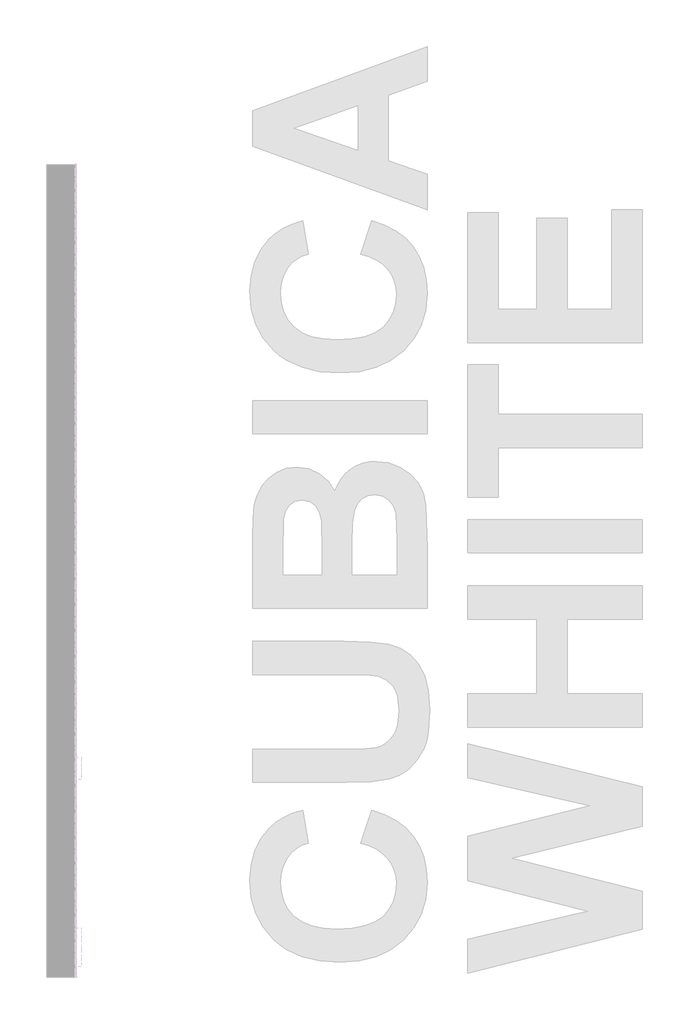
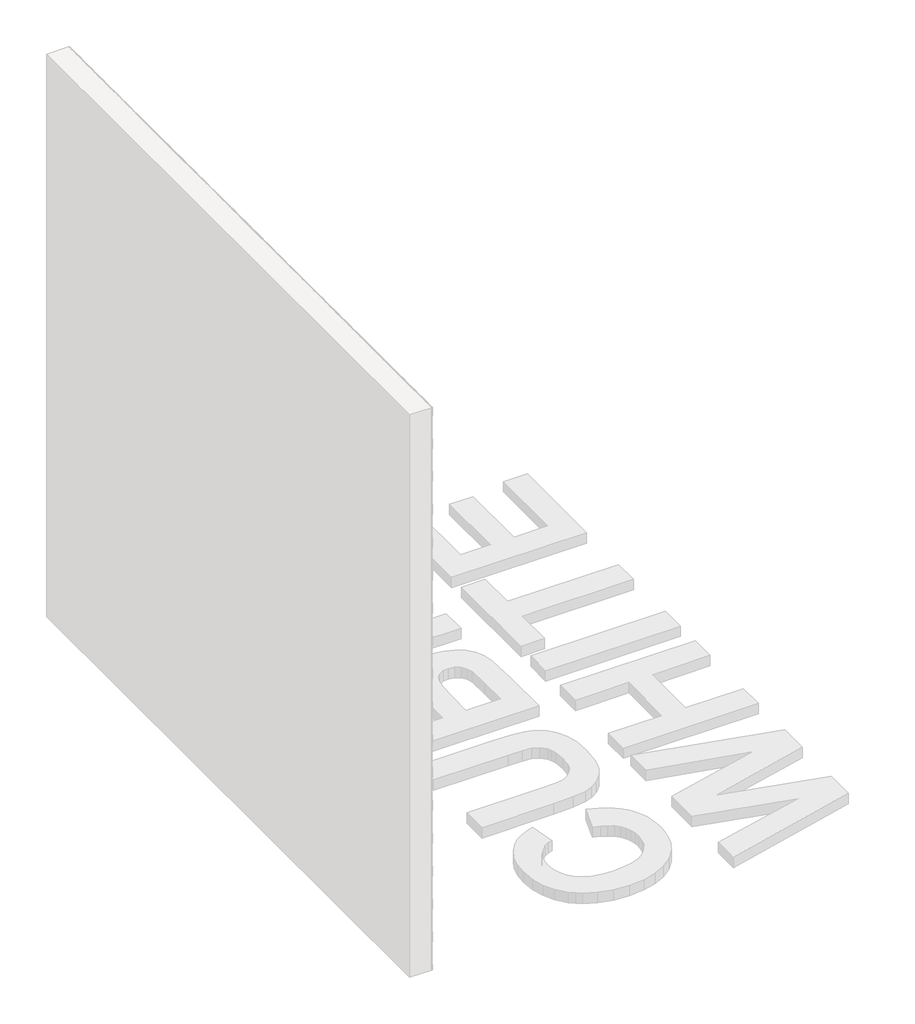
# One storey, part 109 of 121: 145 proxies.
"""IFC4 building model written with IfcOpenShell, lengths in millimetres."""

from ifc_helpers import new_model, si_unit, origin, place, context, project, spatial, transform, mapped, element, save
from components import generic_models_b2b2c5c1, generic_models_9bf73f6f, generic_models_5d175859

model = new_model("IFC4")

# Units and contexts
model_context = context("Model", 3, world=origin())
ifc_project = project(units=[si_unit("LENGTHUNIT", "METRE", prefix="MILLI")], contexts=[model_context])

# Site, building, storey
site = spatial("IfcSite", under=ifc_project)
building = spatial("IfcBuilding", under=site)
storey = spatial("IfcBuildingStorey", under=building, Name="PORTOBELLO - SHOWROOM", Elevation=0.0)

# Proxies
placement = place(None, origin())
generic_models_shape = generic_models_b2b2c5c1(model_context)
element("IfcBuildingElementProxy", 1, Name="PBSHOP - CUBICA WHITE 4,8X8,3 : CUBICA WHITE - POSIÇÃO 01", ObjectType="PBSHOP - CUBICA WHITE 4,8X8,3 : CUBICA WHITE - POSIÇÃO 01", at=placement, inside=storey, context=model_context, shape_type="MappedRepresentation", body=[
    mapped(generic_models_shape, transform((150369.5341846, 20422.8778804, 1539.1802959), x_axis=(0.0, 1.0, 0.0), y_axis=(0.0, 0.0, 1.0), z_axis=(1.0, 0.0, 0.0))),
])
element("IfcBuildingElementProxy", 2, Name="PBSHOP - CUBICA WHITE 4,8X8,3 : CUBICA WHITE - POSIÇÃO 01", ObjectType="PBSHOP - CUBICA WHITE 4,8X8,3 : CUBICA WHITE - POSIÇÃO 01", at=placement, inside=storey, context=model_context, shape_type="MappedRepresentation", body=[
    mapped(generic_models_shape, transform((150369.5341846, 20513.7171496, 1539.1802959), x_axis=(0.0, 1.0, 0.0), y_axis=(0.0, 0.0, 1.0), z_axis=(1.0, 0.0, 0.0))),
])
element("IfcBuildingElementProxy", 3, Name="PBSHOP - CUBICA WHITE 4,8X8,3 : CUBICA WHITE - POSIÇÃO 01", ObjectType="PBSHOP - CUBICA WHITE 4,8X8,3 : CUBICA WHITE - POSIÇÃO 01", at=placement, inside=storey, context=model_context, shape_type="MappedRepresentation", body=[
    mapped(generic_models_shape, transform((150369.5341846, 20604.5564189, 1539.1802959), x_axis=(0.0, 1.0, 0.0), y_axis=(0.0, 0.0, 1.0), z_axis=(1.0, 0.0, 0.0))),
])
element("IfcBuildingElementProxy", 4, Name="PBSHOP - CUBICA WHITE 4,8X8,3 : CUBICA WHITE - POSIÇÃO 01", ObjectType="PBSHOP - CUBICA WHITE 4,8X8,3 : CUBICA WHITE - POSIÇÃO 01", at=placement, inside=storey, context=model_context, shape_type="MappedRepresentation", body=[
    mapped(generic_models_shape, transform((150369.5341846, 20695.3956881, 1539.1802959), x_axis=(0.0, 1.0, 0.0), y_axis=(0.0, 0.0, 1.0), z_axis=(1.0, 0.0, 0.0))),
])
element("IfcBuildingElementProxy", 5, Name="PBSHOP - CUBICA WHITE 4,8X8,3 : CUBICA WHITE - POSIÇÃO 01", ObjectType="PBSHOP - CUBICA WHITE 4,8X8,3 : CUBICA WHITE - POSIÇÃO 01", at=placement, inside=storey, context=model_context, shape_type="MappedRepresentation", body=[
    mapped(generic_models_shape, transform((150369.5341846, 20786.2349573, 1539.1802959), x_axis=(0.0, 1.0, 0.0), y_axis=(0.0, 0.0, 1.0), z_axis=(1.0, 0.0, 0.0))),
])
element("IfcBuildingElementProxy", 6, Name="PBSHOP - CUBICA WHITE 4,8X8,3 : CUBICA WHITE - POSIÇÃO 01", ObjectType="PBSHOP - CUBICA WHITE 4,8X8,3 : CUBICA WHITE - POSIÇÃO 01", at=placement, inside=storey, context=model_context, shape_type="MappedRepresentation", body=[
    mapped(generic_models_shape, transform((150369.5341846, 20877.0742266, 1539.1802959), x_axis=(0.0, 1.0, 0.0), y_axis=(0.0, 0.0, 1.0), z_axis=(1.0, 0.0, 0.0))),
])
element("IfcBuildingElementProxy", 7, Name="PBSHOP - CUBICA WHITE 4,8X8,3 : CUBICA WHITE - POSIÇÃO 01", ObjectType="PBSHOP - CUBICA WHITE 4,8X8,3 : CUBICA WHITE - POSIÇÃO 01", at=placement, inside=storey, context=model_context, shape_type="MappedRepresentation", body=[
    mapped(generic_models_shape, transform((150369.5341846, 20967.9134958, 1539.1802959), x_axis=(0.0, 1.0, 0.0), y_axis=(0.0, 0.0, 1.0), z_axis=(1.0, 0.0, 0.0))),
])
element("IfcBuildingElementProxy", 8, Name="PBSHOP - CUBICA WHITE 4,8X8,3 : CUBICA WHITE - POSIÇÃO 01", ObjectType="PBSHOP - CUBICA WHITE 4,8X8,3 : CUBICA WHITE - POSIÇÃO 01", at=placement, inside=storey, context=model_context, shape_type="MappedRepresentation", body=[
    mapped(generic_models_shape, transform((150369.5341846, 20014.1011688, 1618.1149343), x_axis=(0.0, 1.0, 0.0), y_axis=(0.0, 0.0, 1.0), z_axis=(1.0, 0.0, 0.0))),
])
element("IfcBuildingElementProxy", 9, Name="PBSHOP - CUBICA WHITE 4,8X8,3 : CUBICA WHITE - POSIÇÃO 01", ObjectType="PBSHOP - CUBICA WHITE 4,8X8,3 : CUBICA WHITE - POSIÇÃO 01", at=placement, inside=storey, context=model_context, shape_type="MappedRepresentation", body=[
    mapped(generic_models_shape, transform((150369.5341846, 20104.940438, 1618.1149343), x_axis=(0.0, 1.0, 0.0), y_axis=(0.0, 0.0, 1.0), z_axis=(1.0, 0.0, 0.0))),
])
element("IfcBuildingElementProxy", 10, Name="PBSHOP - CUBICA WHITE 4,8X8,3 : CUBICA WHITE - POSIÇÃO 01", ObjectType="PBSHOP - CUBICA WHITE 4,8X8,3 : CUBICA WHITE - POSIÇÃO 01", at=placement, inside=storey, context=model_context, shape_type="MappedRepresentation", body=[
    mapped(generic_models_shape, transform((150369.5341846, 20195.7797073, 1618.1149343), x_axis=(0.0, 1.0, 0.0), y_axis=(0.0, 0.0, 1.0), z_axis=(1.0, 0.0, 0.0))),
])
element("IfcBuildingElementProxy", 11, Name="PBSHOP - CUBICA WHITE 4,8X8,3 : CUBICA WHITE - POSIÇÃO 01", ObjectType="PBSHOP - CUBICA WHITE 4,8X8,3 : CUBICA WHITE - POSIÇÃO 01", at=placement, inside=storey, context=model_context, shape_type="MappedRepresentation", body=[
    mapped(generic_models_shape, transform((150369.5341846, 20286.6189765, 1618.1149343), x_axis=(0.0, 1.0, 0.0), y_axis=(0.0, 0.0, 1.0), z_axis=(1.0, 0.0, 0.0))),
])
element("IfcBuildingElementProxy", 12, Name="PBSHOP - CUBICA WHITE 4,8X8,3 : CUBICA WHITE - POSIÇÃO 01", ObjectType="PBSHOP - CUBICA WHITE 4,8X8,3 : CUBICA WHITE - POSIÇÃO 01", at=placement, inside=storey, context=model_context, shape_type="MappedRepresentation", body=[
    mapped(generic_models_shape, transform((150369.5341846, 20377.4582457, 1618.1149343), x_axis=(0.0, 1.0, 0.0), y_axis=(0.0, 0.0, 1.0), z_axis=(1.0, 0.0, 0.0))),
])
element("IfcBuildingElementProxy", 13, Name="PBSHOP - CUBICA WHITE 4,8X8,3 : CUBICA WHITE - POSIÇÃO 01", ObjectType="PBSHOP - CUBICA WHITE 4,8X8,3 : CUBICA WHITE - POSIÇÃO 01", at=placement, inside=storey, context=model_context, shape_type="MappedRepresentation", body=[
    mapped(generic_models_shape, transform((150369.5341846, 20468.297515, 1618.1149343), x_axis=(0.0, 1.0, 0.0), y_axis=(0.0, 0.0, 1.0), z_axis=(1.0, 0.0, 0.0))),
])
element("IfcBuildingElementProxy", 14, Name="PBSHOP - CUBICA WHITE 4,8X8,3 : CUBICA WHITE - POSIÇÃO 01", ObjectType="PBSHOP - CUBICA WHITE 4,8X8,3 : CUBICA WHITE - POSIÇÃO 01", at=placement, inside=storey, context=model_context, shape_type="MappedRepresentation", body=[
    mapped(generic_models_shape, transform((150369.5341846, 20559.1367842, 1618.1149343), x_axis=(0.0, 1.0, 0.0), y_axis=(0.0, 0.0, 1.0), z_axis=(1.0, 0.0, 0.0))),
])
element("IfcBuildingElementProxy", 15, Name="PBSHOP - CUBICA WHITE 4,8X8,3 : CUBICA WHITE - POSIÇÃO 01", ObjectType="PBSHOP - CUBICA WHITE 4,8X8,3 : CUBICA WHITE - POSIÇÃO 01", at=placement, inside=storey, context=model_context, shape_type="MappedRepresentation", body=[
    mapped(generic_models_shape, transform((150369.5341846, 20649.9760535, 1618.1149343), x_axis=(0.0, 1.0, 0.0), y_axis=(0.0, 0.0, 1.0), z_axis=(1.0, 0.0, 0.0))),
])
element("IfcBuildingElementProxy", 16, Name="PBSHOP - CUBICA WHITE 4,8X8,3 : CUBICA WHITE - POSIÇÃO 01", ObjectType="PBSHOP - CUBICA WHITE 4,8X8,3 : CUBICA WHITE - POSIÇÃO 01", at=placement, inside=storey, context=model_context, shape_type="MappedRepresentation", body=[
    mapped(generic_models_shape, transform((150369.5341846, 20740.8153227, 1618.1149343), x_axis=(0.0, 1.0, 0.0), y_axis=(0.0, 0.0, 1.0), z_axis=(1.0, 0.0, 0.0))),
])
element("IfcBuildingElementProxy", 17, Name="PBSHOP - CUBICA WHITE 4,8X8,3 : CUBICA WHITE - POSIÇÃO 01", ObjectType="PBSHOP - CUBICA WHITE 4,8X8,3 : CUBICA WHITE - POSIÇÃO 01", at=placement, inside=storey, context=model_context, shape_type="MappedRepresentation", body=[
    mapped(generic_models_shape, transform((150369.5341846, 20831.654592, 1618.1149343), x_axis=(0.0, 1.0, 0.0), y_axis=(0.0, 0.0, 1.0), z_axis=(1.0, 0.0, 0.0))),
])
element("IfcBuildingElementProxy", 18, Name="PBSHOP - CUBICA WHITE 4,8X8,3 : CUBICA WHITE - POSIÇÃO 01", ObjectType="PBSHOP - CUBICA WHITE 4,8X8,3 : CUBICA WHITE - POSIÇÃO 01", at=placement, inside=storey, context=model_context, shape_type="MappedRepresentation", body=[
    mapped(generic_models_shape, transform((150369.5341846, 20922.4938612, 1618.1149343), x_axis=(0.0, 1.0, 0.0), y_axis=(0.0, 0.0, 1.0), z_axis=(1.0, 0.0, 0.0))),
])
element("IfcBuildingElementProxy", 19, Name="PBSHOP - CUBICA WHITE 4,8X8,3 : CUBICA WHITE - POSIÇÃO 01", ObjectType="PBSHOP - CUBICA WHITE 4,8X8,3 : CUBICA WHITE - POSIÇÃO 01", at=placement, inside=storey, context=model_context, shape_type="MappedRepresentation", body=[
    mapped(generic_models_shape, transform((150369.5341846, 20059.5208034, 1697.0495727), x_axis=(0.0, 1.0, 0.0), y_axis=(0.0, 0.0, 1.0), z_axis=(1.0, 0.0, 0.0))),
])
element("IfcBuildingElementProxy", 20, Name="PBSHOP - CUBICA WHITE 4,8X8,3 : CUBICA WHITE - POSIÇÃO 01", ObjectType="PBSHOP - CUBICA WHITE 4,8X8,3 : CUBICA WHITE - POSIÇÃO 01", at=placement, inside=storey, context=model_context, shape_type="MappedRepresentation", body=[
    mapped(generic_models_shape, transform((150369.5341846, 20150.3600726, 1697.0495727), x_axis=(0.0, 1.0, 0.0), y_axis=(0.0, 0.0, 1.0), z_axis=(1.0, 0.0, 0.0))),
])
element("IfcBuildingElementProxy", 21, Name="PBSHOP - CUBICA WHITE 4,8X8,3 : CUBICA WHITE - POSIÇÃO 01", ObjectType="PBSHOP - CUBICA WHITE 4,8X8,3 : CUBICA WHITE - POSIÇÃO 01", at=placement, inside=storey, context=model_context, shape_type="MappedRepresentation", body=[
    mapped(generic_models_shape, transform((150369.5341846, 20241.1993419, 1697.0495727), x_axis=(0.0, 1.0, 0.0), y_axis=(0.0, 0.0, 1.0), z_axis=(1.0, 0.0, 0.0))),
])
element("IfcBuildingElementProxy", 22, Name="PBSHOP - CUBICA WHITE 4,8X8,3 : CUBICA WHITE - POSIÇÃO 01", ObjectType="PBSHOP - CUBICA WHITE 4,8X8,3 : CUBICA WHITE - POSIÇÃO 01", at=placement, inside=storey, context=model_context, shape_type="MappedRepresentation", body=[
    mapped(generic_models_shape, transform((150369.5341846, 20332.0386111, 1697.0495727), x_axis=(0.0, 1.0, 0.0), y_axis=(0.0, 0.0, 1.0), z_axis=(1.0, 0.0, 0.0))),
])
element("IfcBuildingElementProxy", 23, Name="PBSHOP - CUBICA WHITE 4,8X8,3 : CUBICA WHITE - POSIÇÃO 01", ObjectType="PBSHOP - CUBICA WHITE 4,8X8,3 : CUBICA WHITE - POSIÇÃO 01", at=placement, inside=storey, context=model_context, shape_type="MappedRepresentation", body=[
    mapped(generic_models_shape, transform((150369.5341846, 20422.8778804, 1697.0495727), x_axis=(0.0, 1.0, 0.0), y_axis=(0.0, 0.0, 1.0), z_axis=(1.0, 0.0, 0.0))),
])
element("IfcBuildingElementProxy", 24, Name="PBSHOP - CUBICA WHITE 4,8X8,3 : CUBICA WHITE - POSIÇÃO 01", ObjectType="PBSHOP - CUBICA WHITE 4,8X8,3 : CUBICA WHITE - POSIÇÃO 01", at=placement, inside=storey, context=model_context, shape_type="MappedRepresentation", body=[
    mapped(generic_models_shape, transform((150369.5341846, 20513.7171496, 1697.0495727), x_axis=(0.0, 1.0, 0.0), y_axis=(0.0, 0.0, 1.0), z_axis=(1.0, 0.0, 0.0))),
])
element("IfcBuildingElementProxy", 25, Name="PBSHOP - CUBICA WHITE 4,8X8,3 : CUBICA WHITE - POSIÇÃO 01", ObjectType="PBSHOP - CUBICA WHITE 4,8X8,3 : CUBICA WHITE - POSIÇÃO 01", at=placement, inside=storey, context=model_context, shape_type="MappedRepresentation", body=[
    mapped(generic_models_shape, transform((150369.5341846, 20604.5564189, 1697.0495727), x_axis=(0.0, 1.0, 0.0), y_axis=(0.0, 0.0, 1.0), z_axis=(1.0, 0.0, 0.0))),
])
element("IfcBuildingElementProxy", 26, Name="PBSHOP - CUBICA WHITE 4,8X8,3 : CUBICA WHITE - POSIÇÃO 01", ObjectType="PBSHOP - CUBICA WHITE 4,8X8,3 : CUBICA WHITE - POSIÇÃO 01", at=placement, inside=storey, context=model_context, shape_type="MappedRepresentation", body=[
    mapped(generic_models_shape, transform((150369.5341846, 20695.3956881, 1697.0495727), x_axis=(0.0, 1.0, 0.0), y_axis=(0.0, 0.0, 1.0), z_axis=(1.0, 0.0, 0.0))),
])
element("IfcBuildingElementProxy", 27, Name="PBSHOP - CUBICA WHITE 4,8X8,3 : CUBICA WHITE - POSIÇÃO 01", ObjectType="PBSHOP - CUBICA WHITE 4,8X8,3 : CUBICA WHITE - POSIÇÃO 01", at=placement, inside=storey, context=model_context, shape_type="MappedRepresentation", body=[
    mapped(generic_models_shape, transform((150369.5341846, 20786.2349573, 1697.0495727), x_axis=(0.0, 1.0, 0.0), y_axis=(0.0, 0.0, 1.0), z_axis=(1.0, 0.0, 0.0))),
])
element("IfcBuildingElementProxy", 28, Name="PBSHOP - CUBICA WHITE 4,8X8,3 : CUBICA WHITE - POSIÇÃO 01", ObjectType="PBSHOP - CUBICA WHITE 4,8X8,3 : CUBICA WHITE - POSIÇÃO 01", at=placement, inside=storey, context=model_context, shape_type="MappedRepresentation", body=[
    mapped(generic_models_shape, transform((150369.5341846, 20877.0742266, 1697.0495727), x_axis=(0.0, 1.0, 0.0), y_axis=(0.0, 0.0, 1.0), z_axis=(1.0, 0.0, 0.0))),
])
element("IfcBuildingElementProxy", 29, Name="PBSHOP - CUBICA WHITE 4,8X8,3 : CUBICA WHITE - POSIÇÃO 01", ObjectType="PBSHOP - CUBICA WHITE 4,8X8,3 : CUBICA WHITE - POSIÇÃO 01", at=placement, inside=storey, context=model_context, shape_type="MappedRepresentation", body=[
    mapped(generic_models_shape, transform((150369.5341846, 20967.9134958, 1697.0495727), x_axis=(0.0, 1.0, 0.0), y_axis=(0.0, 0.0, 1.0), z_axis=(1.0, 0.0, 0.0))),
])
element("IfcBuildingElementProxy", 30, Name="PBSHOP - CUBICA WHITE 4,8X8,3 : CUBICA WHITE - POSIÇÃO 01", ObjectType="PBSHOP - CUBICA WHITE 4,8X8,3 : CUBICA WHITE - POSIÇÃO 01", at=placement, inside=storey, context=model_context, shape_type="MappedRepresentation", body=[
    mapped(generic_models_shape, transform((150369.5341846, 20014.1011688, 1775.984211), x_axis=(0.0, 1.0, 0.0), y_axis=(0.0, 0.0, 1.0), z_axis=(1.0, 0.0, 0.0))),
])
element("IfcBuildingElementProxy", 31, Name="PBSHOP - CUBICA WHITE 4,8X8,3 : CUBICA WHITE - POSIÇÃO 01", ObjectType="PBSHOP - CUBICA WHITE 4,8X8,3 : CUBICA WHITE - POSIÇÃO 01", at=placement, inside=storey, context=model_context, shape_type="MappedRepresentation", body=[
    mapped(generic_models_shape, transform((150369.5341846, 20104.940438, 1775.984211), x_axis=(0.0, 1.0, 0.0), y_axis=(0.0, 0.0, 1.0), z_axis=(1.0, 0.0, 0.0))),
])
element("IfcBuildingElementProxy", 32, Name="PBSHOP - CUBICA WHITE 4,8X8,3 : CUBICA WHITE - POSIÇÃO 01", ObjectType="PBSHOP - CUBICA WHITE 4,8X8,3 : CUBICA WHITE - POSIÇÃO 01", at=placement, inside=storey, context=model_context, shape_type="MappedRepresentation", body=[
    mapped(generic_models_shape, transform((150369.5341846, 20195.7797073, 1775.984211), x_axis=(0.0, 1.0, 0.0), y_axis=(0.0, 0.0, 1.0), z_axis=(1.0, 0.0, 0.0))),
])
element("IfcBuildingElementProxy", 33, Name="PBSHOP - CUBICA WHITE 4,8X8,3 : CUBICA WHITE - POSIÇÃO 01", ObjectType="PBSHOP - CUBICA WHITE 4,8X8,3 : CUBICA WHITE - POSIÇÃO 01", at=placement, inside=storey, context=model_context, shape_type="MappedRepresentation", body=[
    mapped(generic_models_shape, transform((150369.5341846, 20286.6189765, 1775.984211), x_axis=(0.0, 1.0, 0.0), y_axis=(0.0, 0.0, 1.0), z_axis=(1.0, 0.0, 0.0))),
])
element("IfcBuildingElementProxy", 34, Name="PBSHOP - CUBICA WHITE 4,8X8,3 : CUBICA WHITE - POSIÇÃO 01", ObjectType="PBSHOP - CUBICA WHITE 4,8X8,3 : CUBICA WHITE - POSIÇÃO 01", at=placement, inside=storey, context=model_context, shape_type="MappedRepresentation", body=[
    mapped(generic_models_shape, transform((150369.5341846, 20377.4582457, 1775.984211), x_axis=(0.0, 1.0, 0.0), y_axis=(0.0, 0.0, 1.0), z_axis=(1.0, 0.0, 0.0))),
])
element("IfcBuildingElementProxy", 35, Name="PBSHOP - CUBICA WHITE 4,8X8,3 : CUBICA WHITE - POSIÇÃO 01", ObjectType="PBSHOP - CUBICA WHITE 4,8X8,3 : CUBICA WHITE - POSIÇÃO 01", at=placement, inside=storey, context=model_context, shape_type="MappedRepresentation", body=[
    mapped(generic_models_shape, transform((150369.5341846, 20468.297515, 1775.984211), x_axis=(0.0, 1.0, 0.0), y_axis=(0.0, 0.0, 1.0), z_axis=(1.0, 0.0, 0.0))),
])
element("IfcBuildingElementProxy", 36, Name="PBSHOP - CUBICA WHITE 4,8X8,3 : CUBICA WHITE - POSIÇÃO 01", ObjectType="PBSHOP - CUBICA WHITE 4,8X8,3 : CUBICA WHITE - POSIÇÃO 01", at=placement, inside=storey, context=model_context, shape_type="MappedRepresentation", body=[
    mapped(generic_models_shape, transform((150369.5341846, 20559.1367842, 1775.984211), x_axis=(0.0, 1.0, 0.0), y_axis=(0.0, 0.0, 1.0), z_axis=(1.0, 0.0, 0.0))),
])
element("IfcBuildingElementProxy", 37, Name="PBSHOP - CUBICA WHITE 4,8X8,3 : CUBICA WHITE - POSIÇÃO 01", ObjectType="PBSHOP - CUBICA WHITE 4,8X8,3 : CUBICA WHITE - POSIÇÃO 01", at=placement, inside=storey, context=model_context, shape_type="MappedRepresentation", body=[
    mapped(generic_models_shape, transform((150369.5341846, 20649.9760535, 1775.984211), x_axis=(0.0, 1.0, 0.0), y_axis=(0.0, 0.0, 1.0), z_axis=(1.0, 0.0, 0.0))),
])
element("IfcBuildingElementProxy", 38, Name="PBSHOP - CUBICA WHITE 4,8X8,3 : CUBICA WHITE - POSIÇÃO 01", ObjectType="PBSHOP - CUBICA WHITE 4,8X8,3 : CUBICA WHITE - POSIÇÃO 01", at=placement, inside=storey, context=model_context, shape_type="MappedRepresentation", body=[
    mapped(generic_models_shape, transform((150369.5341846, 20740.8153227, 1775.984211), x_axis=(0.0, 1.0, 0.0), y_axis=(0.0, 0.0, 1.0), z_axis=(1.0, 0.0, 0.0))),
])
element("IfcBuildingElementProxy", 39, Name="PBSHOP - CUBICA WHITE 4,8X8,3 : CUBICA WHITE - POSIÇÃO 01", ObjectType="PBSHOP - CUBICA WHITE 4,8X8,3 : CUBICA WHITE - POSIÇÃO 01", at=placement, inside=storey, context=model_context, shape_type="MappedRepresentation", body=[
    mapped(generic_models_shape, transform((150369.5341846, 20831.654592, 1775.984211), x_axis=(0.0, 1.0, 0.0), y_axis=(0.0, 0.0, 1.0), z_axis=(1.0, 0.0, 0.0))),
])
element("IfcBuildingElementProxy", 40, Name="PBSHOP - CUBICA WHITE 4,8X8,3 : CUBICA WHITE - POSIÇÃO 01", ObjectType="PBSHOP - CUBICA WHITE 4,8X8,3 : CUBICA WHITE - POSIÇÃO 01", at=placement, inside=storey, context=model_context, shape_type="MappedRepresentation", body=[
    mapped(generic_models_shape, transform((150369.5341846, 20922.4938612, 1775.984211), x_axis=(0.0, 1.0, 0.0), y_axis=(0.0, 0.0, 1.0), z_axis=(1.0, 0.0, 0.0))),
])
element("IfcBuildingElementProxy", 41, Name="PBSHOP - CUBICA WHITE 4,8X8,3 : CUBICA WHITE - POSIÇÃO 01", ObjectType="PBSHOP - CUBICA WHITE 4,8X8,3 : CUBICA WHITE - POSIÇÃO 01", at=placement, inside=storey, context=model_context, shape_type="MappedRepresentation", body=[
    mapped(generic_models_shape, transform((150369.5341846, 20059.5208034, 1854.9188494), x_axis=(0.0, 1.0, 0.0), y_axis=(0.0, 0.0, 1.0), z_axis=(1.0, 0.0, 0.0))),
])
element("IfcBuildingElementProxy", 42, Name="PBSHOP - CUBICA WHITE 4,8X8,3 : CUBICA WHITE - POSIÇÃO 01", ObjectType="PBSHOP - CUBICA WHITE 4,8X8,3 : CUBICA WHITE - POSIÇÃO 01", at=placement, inside=storey, context=model_context, shape_type="MappedRepresentation", body=[
    mapped(generic_models_shape, transform((150369.5341846, 20150.3600726, 1854.9188494), x_axis=(0.0, 1.0, 0.0), y_axis=(0.0, 0.0, 1.0), z_axis=(1.0, 0.0, 0.0))),
])
element("IfcBuildingElementProxy", 43, Name="PBSHOP - CUBICA WHITE 4,8X8,3 : CUBICA WHITE - POSIÇÃO 01", ObjectType="PBSHOP - CUBICA WHITE 4,8X8,3 : CUBICA WHITE - POSIÇÃO 01", at=placement, inside=storey, context=model_context, shape_type="MappedRepresentation", body=[
    mapped(generic_models_shape, transform((150369.5341846, 20241.1993419, 1854.9188494), x_axis=(0.0, 1.0, 0.0), y_axis=(0.0, 0.0, 1.0), z_axis=(1.0, 0.0, 0.0))),
])
element("IfcBuildingElementProxy", 44, Name="PBSHOP - CUBICA WHITE 4,8X8,3 : CUBICA WHITE - POSIÇÃO 01", ObjectType="PBSHOP - CUBICA WHITE 4,8X8,3 : CUBICA WHITE - POSIÇÃO 01", at=placement, inside=storey, context=model_context, shape_type="MappedRepresentation", body=[
    mapped(generic_models_shape, transform((150369.5341846, 20332.0386111, 1854.9188494), x_axis=(0.0, 1.0, 0.0), y_axis=(0.0, 0.0, 1.0), z_axis=(1.0, 0.0, 0.0))),
])
element("IfcBuildingElementProxy", 45, Name="PBSHOP - CUBICA WHITE 4,8X8,3 : CUBICA WHITE - POSIÇÃO 01", ObjectType="PBSHOP - CUBICA WHITE 4,8X8,3 : CUBICA WHITE - POSIÇÃO 01", at=placement, inside=storey, context=model_context, shape_type="MappedRepresentation", body=[
    mapped(generic_models_shape, transform((150369.5341846, 20422.8778804, 1854.9188494), x_axis=(0.0, 1.0, 0.0), y_axis=(0.0, 0.0, 1.0), z_axis=(1.0, 0.0, 0.0))),
])
element("IfcBuildingElementProxy", 46, Name="PBSHOP - CUBICA WHITE 4,8X8,3 : CUBICA WHITE - POSIÇÃO 01", ObjectType="PBSHOP - CUBICA WHITE 4,8X8,3 : CUBICA WHITE - POSIÇÃO 01", at=placement, inside=storey, context=model_context, shape_type="MappedRepresentation", body=[
    mapped(generic_models_shape, transform((150369.5341846, 20513.7171496, 1854.9188494), x_axis=(0.0, 1.0, 0.0), y_axis=(0.0, 0.0, 1.0), z_axis=(1.0, 0.0, 0.0))),
])
element("IfcBuildingElementProxy", 47, Name="PBSHOP - CUBICA WHITE 4,8X8,3 : CUBICA WHITE - POSIÇÃO 01", ObjectType="PBSHOP - CUBICA WHITE 4,8X8,3 : CUBICA WHITE - POSIÇÃO 01", at=placement, inside=storey, context=model_context, shape_type="MappedRepresentation", body=[
    mapped(generic_models_shape, transform((150369.5341846, 20604.5564189, 1854.9188494), x_axis=(0.0, 1.0, 0.0), y_axis=(0.0, 0.0, 1.0), z_axis=(1.0, 0.0, 0.0))),
])
element("IfcBuildingElementProxy", 48, Name="PBSHOP - CUBICA WHITE 4,8X8,3 : CUBICA WHITE - POSIÇÃO 01", ObjectType="PBSHOP - CUBICA WHITE 4,8X8,3 : CUBICA WHITE - POSIÇÃO 01", at=placement, inside=storey, context=model_context, shape_type="MappedRepresentation", body=[
    mapped(generic_models_shape, transform((150369.5341846, 20695.3956881, 1854.9188494), x_axis=(0.0, 1.0, 0.0), y_axis=(0.0, 0.0, 1.0), z_axis=(1.0, 0.0, 0.0))),
])
element("IfcBuildingElementProxy", 49, Name="PBSHOP - CUBICA WHITE 4,8X8,3 : CUBICA WHITE - POSIÇÃO 01", ObjectType="PBSHOP - CUBICA WHITE 4,8X8,3 : CUBICA WHITE - POSIÇÃO 01", at=placement, inside=storey, context=model_context, shape_type="MappedRepresentation", body=[
    mapped(generic_models_shape, transform((150369.5341846, 20786.2349573, 1854.9188494), x_axis=(0.0, 1.0, 0.0), y_axis=(0.0, 0.0, 1.0), z_axis=(1.0, 0.0, 0.0))),
])
element("IfcBuildingElementProxy", 50, Name="PBSHOP - CUBICA WHITE 4,8X8,3 : CUBICA WHITE - POSIÇÃO 01", ObjectType="PBSHOP - CUBICA WHITE 4,8X8,3 : CUBICA WHITE - POSIÇÃO 01", at=placement, inside=storey, context=model_context, shape_type="MappedRepresentation", body=[
    mapped(generic_models_shape, transform((150369.5341846, 20877.0742266, 1854.9188494), x_axis=(0.0, 1.0, 0.0), y_axis=(0.0, 0.0, 1.0), z_axis=(1.0, 0.0, 0.0))),
])
generic_models_2_shape = generic_models_9bf73f6f(model_context)
element("IfcBuildingElementProxy", 51, Name="PBSHOP - CUBICA WHITE 4,8X8,3 : CUBICA WHITE - POSIÇÃO 03", ObjectType="PBSHOP - CUBICA WHITE 4,8X8,3 : CUBICA WHITE - POSIÇÃO 03", at=placement, inside=storey, context=model_context, shape_type="MappedRepresentation", body=[
    mapped(generic_models_2_shape, transform((150369.5341846, 20036.8131452, 1499.6717663), x_axis=(0.0, 1.0, 0.0), y_axis=(0.0, 0.0, 1.0), z_axis=(1.0, 0.0, 0.0))),
])
element("IfcBuildingElementProxy", 52, Name="PBSHOP - CUBICA WHITE 4,8X8,3 : CUBICA WHITE - POSIÇÃO 03", ObjectType="PBSHOP - CUBICA WHITE 4,8X8,3 : CUBICA WHITE - POSIÇÃO 03", at=placement, inside=storey, context=model_context, shape_type="MappedRepresentation", body=[
    mapped(generic_models_2_shape, transform((150369.5341846, 20127.6524145, 1499.6717663), x_axis=(0.0, 1.0, 0.0), y_axis=(0.0, 0.0, 1.0), z_axis=(1.0, 0.0, 0.0))),
])
element("IfcBuildingElementProxy", 53, Name="PBSHOP - CUBICA WHITE 4,8X8,3 : CUBICA WHITE - POSIÇÃO 03", ObjectType="PBSHOP - CUBICA WHITE 4,8X8,3 : CUBICA WHITE - POSIÇÃO 03", at=placement, inside=storey, context=model_context, shape_type="MappedRepresentation", body=[
    mapped(generic_models_2_shape, transform((150369.5341846, 20218.4916837, 1499.6717663), x_axis=(0.0, 1.0, 0.0), y_axis=(0.0, 0.0, 1.0), z_axis=(1.0, 0.0, 0.0))),
])
element("IfcBuildingElementProxy", 54, Name="PBSHOP - CUBICA WHITE 4,8X8,3 : CUBICA WHITE - POSIÇÃO 03", ObjectType="PBSHOP - CUBICA WHITE 4,8X8,3 : CUBICA WHITE - POSIÇÃO 03", at=placement, inside=storey, context=model_context, shape_type="MappedRepresentation", body=[
    mapped(generic_models_2_shape, transform((150369.5341846, 20309.330953, 1499.6717663), x_axis=(0.0, 1.0, 0.0), y_axis=(0.0, 0.0, 1.0), z_axis=(1.0, 0.0, 0.0))),
])
element("IfcBuildingElementProxy", 55, Name="PBSHOP - CUBICA WHITE 4,8X8,3 : CUBICA WHITE - POSIÇÃO 03", ObjectType="PBSHOP - CUBICA WHITE 4,8X8,3 : CUBICA WHITE - POSIÇÃO 03", at=placement, inside=storey, context=model_context, shape_type="MappedRepresentation", body=[
    mapped(generic_models_2_shape, transform((150369.5341846, 20400.1702222, 1499.6717663), x_axis=(0.0, 1.0, 0.0), y_axis=(0.0, 0.0, 1.0), z_axis=(1.0, 0.0, 0.0))),
])
element("IfcBuildingElementProxy", 56, Name="PBSHOP - CUBICA WHITE 4,8X8,3 : CUBICA WHITE - POSIÇÃO 03", ObjectType="PBSHOP - CUBICA WHITE 4,8X8,3 : CUBICA WHITE - POSIÇÃO 03", at=placement, inside=storey, context=model_context, shape_type="MappedRepresentation", body=[
    mapped(generic_models_2_shape, transform((150369.5341846, 20491.0094915, 1499.6717663), x_axis=(0.0, 1.0, 0.0), y_axis=(0.0, 0.0, 1.0), z_axis=(1.0, 0.0, 0.0))),
])
element("IfcBuildingElementProxy", 57, Name="PBSHOP - CUBICA WHITE 4,8X8,3 : CUBICA WHITE - POSIÇÃO 03", ObjectType="PBSHOP - CUBICA WHITE 4,8X8,3 : CUBICA WHITE - POSIÇÃO 03", at=placement, inside=storey, context=model_context, shape_type="MappedRepresentation", body=[
    mapped(generic_models_2_shape, transform((150369.5341846, 20581.8487607, 1499.6717663), x_axis=(0.0, 1.0, 0.0), y_axis=(0.0, 0.0, 1.0), z_axis=(1.0, 0.0, 0.0))),
])
element("IfcBuildingElementProxy", 58, Name="PBSHOP - CUBICA WHITE 4,8X8,3 : CUBICA WHITE - POSIÇÃO 03", ObjectType="PBSHOP - CUBICA WHITE 4,8X8,3 : CUBICA WHITE - POSIÇÃO 03", at=placement, inside=storey, context=model_context, shape_type="MappedRepresentation", body=[
    mapped(generic_models_2_shape, transform((150369.5341846, 20672.6880299, 1499.6717663), x_axis=(0.0, 1.0, 0.0), y_axis=(0.0, 0.0, 1.0), z_axis=(1.0, 0.0, 0.0))),
])
element("IfcBuildingElementProxy", 59, Name="PBSHOP - CUBICA WHITE 4,8X8,3 : CUBICA WHITE - POSIÇÃO 03", ObjectType="PBSHOP - CUBICA WHITE 4,8X8,3 : CUBICA WHITE - POSIÇÃO 03", at=placement, inside=storey, context=model_context, shape_type="MappedRepresentation", body=[
    mapped(generic_models_2_shape, transform((150369.5341846, 20763.5272992, 1499.6717663), x_axis=(0.0, 1.0, 0.0), y_axis=(0.0, 0.0, 1.0), z_axis=(1.0, 0.0, 0.0))),
])
element("IfcBuildingElementProxy", 60, Name="PBSHOP - CUBICA WHITE 4,8X8,3 : CUBICA WHITE - POSIÇÃO 03", ObjectType="PBSHOP - CUBICA WHITE 4,8X8,3 : CUBICA WHITE - POSIÇÃO 03", at=placement, inside=storey, context=model_context, shape_type="MappedRepresentation", body=[
    mapped(generic_models_2_shape, transform((150369.5341846, 20854.3665684, 1499.6717663), x_axis=(0.0, 1.0, 0.0), y_axis=(0.0, 0.0, 1.0), z_axis=(1.0, 0.0, 0.0))),
])
element("IfcBuildingElementProxy", 61, Name="PBSHOP - CUBICA WHITE 4,8X8,3 : CUBICA WHITE - POSIÇÃO 03", ObjectType="PBSHOP - CUBICA WHITE 4,8X8,3 : CUBICA WHITE - POSIÇÃO 03", at=placement, inside=storey, context=model_context, shape_type="MappedRepresentation", body=[
    mapped(generic_models_2_shape, transform((150369.5341846, 20945.2058377, 1499.6717663), x_axis=(0.0, 1.0, 0.0), y_axis=(0.0, 0.0, 1.0), z_axis=(1.0, 0.0, 0.0))),
])
element("IfcBuildingElementProxy", 62, Name="PBSHOP - CUBICA WHITE 4,8X8,3 : CUBICA WHITE - POSIÇÃO 03", ObjectType="PBSHOP - CUBICA WHITE 4,8X8,3 : CUBICA WHITE - POSIÇÃO 03", at=placement, inside=storey, context=model_context, shape_type="MappedRepresentation", body=[
    mapped(generic_models_2_shape, transform((150369.5341846, 20082.2327799, 1578.6064047), x_axis=(0.0, 1.0, 0.0), y_axis=(0.0, 0.0, 1.0), z_axis=(1.0, 0.0, 0.0))),
])
element("IfcBuildingElementProxy", 63, Name="PBSHOP - CUBICA WHITE 4,8X8,3 : CUBICA WHITE - POSIÇÃO 03", ObjectType="PBSHOP - CUBICA WHITE 4,8X8,3 : CUBICA WHITE - POSIÇÃO 03", at=placement, inside=storey, context=model_context, shape_type="MappedRepresentation", body=[
    mapped(generic_models_2_shape, transform((150369.5341846, 20173.0720491, 1578.6064047), x_axis=(0.0, 1.0, 0.0), y_axis=(0.0, 0.0, 1.0), z_axis=(1.0, 0.0, 0.0))),
])
element("IfcBuildingElementProxy", 64, Name="PBSHOP - CUBICA WHITE 4,8X8,3 : CUBICA WHITE - POSIÇÃO 03", ObjectType="PBSHOP - CUBICA WHITE 4,8X8,3 : CUBICA WHITE - POSIÇÃO 03", at=placement, inside=storey, context=model_context, shape_type="MappedRepresentation", body=[
    mapped(generic_models_2_shape, transform((150369.5341846, 20263.9113184, 1578.6064047), x_axis=(0.0, 1.0, 0.0), y_axis=(0.0, 0.0, 1.0), z_axis=(1.0, 0.0, 0.0))),
])
element("IfcBuildingElementProxy", 65, Name="PBSHOP - CUBICA WHITE 4,8X8,3 : CUBICA WHITE - POSIÇÃO 03", ObjectType="PBSHOP - CUBICA WHITE 4,8X8,3 : CUBICA WHITE - POSIÇÃO 03", at=placement, inside=storey, context=model_context, shape_type="MappedRepresentation", body=[
    mapped(generic_models_2_shape, transform((150369.5341846, 20354.7505876, 1578.6064047), x_axis=(0.0, 1.0, 0.0), y_axis=(0.0, 0.0, 1.0), z_axis=(1.0, 0.0, 0.0))),
])
element("IfcBuildingElementProxy", 66, Name="PBSHOP - CUBICA WHITE 4,8X8,3 : CUBICA WHITE - POSIÇÃO 03", ObjectType="PBSHOP - CUBICA WHITE 4,8X8,3 : CUBICA WHITE - POSIÇÃO 03", at=placement, inside=storey, context=model_context, shape_type="MappedRepresentation", body=[
    mapped(generic_models_2_shape, transform((150369.5341846, 20445.5898568, 1578.6064047), x_axis=(0.0, 1.0, 0.0), y_axis=(0.0, 0.0, 1.0), z_axis=(1.0, 0.0, 0.0))),
])
element("IfcBuildingElementProxy", 67, Name="PBSHOP - CUBICA WHITE 4,8X8,3 : CUBICA WHITE - POSIÇÃO 03", ObjectType="PBSHOP - CUBICA WHITE 4,8X8,3 : CUBICA WHITE - POSIÇÃO 03", at=placement, inside=storey, context=model_context, shape_type="MappedRepresentation", body=[
    mapped(generic_models_2_shape, transform((150369.5341846, 20536.4291261, 1578.6064047), x_axis=(0.0, 1.0, 0.0), y_axis=(0.0, 0.0, 1.0), z_axis=(1.0, 0.0, 0.0))),
])
element("IfcBuildingElementProxy", 68, Name="PBSHOP - CUBICA WHITE 4,8X8,3 : CUBICA WHITE - POSIÇÃO 03", ObjectType="PBSHOP - CUBICA WHITE 4,8X8,3 : CUBICA WHITE - POSIÇÃO 03", at=placement, inside=storey, context=model_context, shape_type="MappedRepresentation", body=[
    mapped(generic_models_2_shape, transform((150369.5341846, 20627.2683953, 1578.6064047), x_axis=(0.0, 1.0, 0.0), y_axis=(0.0, 0.0, 1.0), z_axis=(1.0, 0.0, 0.0))),
])
element("IfcBuildingElementProxy", 69, Name="PBSHOP - CUBICA WHITE 4,8X8,3 : CUBICA WHITE - POSIÇÃO 03", ObjectType="PBSHOP - CUBICA WHITE 4,8X8,3 : CUBICA WHITE - POSIÇÃO 03", at=placement, inside=storey, context=model_context, shape_type="MappedRepresentation", body=[
    mapped(generic_models_2_shape, transform((150369.5341846, 20718.1076646, 1578.6064047), x_axis=(0.0, 1.0, 0.0), y_axis=(0.0, 0.0, 1.0), z_axis=(1.0, 0.0, 0.0))),
])
element("IfcBuildingElementProxy", 70, Name="PBSHOP - CUBICA WHITE 4,8X8,3 : CUBICA WHITE - POSIÇÃO 03", ObjectType="PBSHOP - CUBICA WHITE 4,8X8,3 : CUBICA WHITE - POSIÇÃO 03", at=placement, inside=storey, context=model_context, shape_type="MappedRepresentation", body=[
    mapped(generic_models_2_shape, transform((150369.5341846, 20808.9469338, 1578.6064047), x_axis=(0.0, 1.0, 0.0), y_axis=(0.0, 0.0, 1.0), z_axis=(1.0, 0.0, 0.0))),
])
element("IfcBuildingElementProxy", 71, Name="PBSHOP - CUBICA WHITE 4,8X8,3 : CUBICA WHITE - POSIÇÃO 03", ObjectType="PBSHOP - CUBICA WHITE 4,8X8,3 : CUBICA WHITE - POSIÇÃO 03", at=placement, inside=storey, context=model_context, shape_type="MappedRepresentation", body=[
    mapped(generic_models_2_shape, transform((150369.5341846, 20899.7862031, 1578.6064047), x_axis=(0.0, 1.0, 0.0), y_axis=(0.0, 0.0, 1.0), z_axis=(1.0, 0.0, 0.0))),
])
element("IfcBuildingElementProxy", 72, Name="PBSHOP - CUBICA WHITE 4,8X8,3 : CUBICA WHITE - POSIÇÃO 03", ObjectType="PBSHOP - CUBICA WHITE 4,8X8,3 : CUBICA WHITE - POSIÇÃO 03", at=placement, inside=storey, context=model_context, shape_type="MappedRepresentation", body=[
    mapped(generic_models_2_shape, transform((150369.5341846, 20990.6254723, 1578.6064047), x_axis=(0.0, 1.0, 0.0), y_axis=(0.0, 0.0, 1.0), z_axis=(1.0, 0.0, 0.0))),
])
element("IfcBuildingElementProxy", 73, Name="PBSHOP - CUBICA WHITE 4,8X8,3 : CUBICA WHITE - POSIÇÃO 03", ObjectType="PBSHOP - CUBICA WHITE 4,8X8,3 : CUBICA WHITE - POSIÇÃO 03", at=placement, inside=storey, context=model_context, shape_type="MappedRepresentation", body=[
    mapped(generic_models_2_shape, transform((150369.5341846, 20036.8131452, 1657.5410431), x_axis=(0.0, 1.0, 0.0), y_axis=(0.0, 0.0, 1.0), z_axis=(1.0, 0.0, 0.0))),
])
element("IfcBuildingElementProxy", 74, Name="PBSHOP - CUBICA WHITE 4,8X8,3 : CUBICA WHITE - POSIÇÃO 03", ObjectType="PBSHOP - CUBICA WHITE 4,8X8,3 : CUBICA WHITE - POSIÇÃO 03", at=placement, inside=storey, context=model_context, shape_type="MappedRepresentation", body=[
    mapped(generic_models_2_shape, transform((150369.5341846, 20127.6524145, 1657.5410431), x_axis=(0.0, 1.0, 0.0), y_axis=(0.0, 0.0, 1.0), z_axis=(1.0, 0.0, 0.0))),
])
element("IfcBuildingElementProxy", 75, Name="PBSHOP - CUBICA WHITE 4,8X8,3 : CUBICA WHITE - POSIÇÃO 03", ObjectType="PBSHOP - CUBICA WHITE 4,8X8,3 : CUBICA WHITE - POSIÇÃO 03", at=placement, inside=storey, context=model_context, shape_type="MappedRepresentation", body=[
    mapped(generic_models_2_shape, transform((150369.5341846, 20218.4916837, 1657.5410431), x_axis=(0.0, 1.0, 0.0), y_axis=(0.0, 0.0, 1.0), z_axis=(1.0, 0.0, 0.0))),
])
element("IfcBuildingElementProxy", 76, Name="PBSHOP - CUBICA WHITE 4,8X8,3 : CUBICA WHITE - POSIÇÃO 03", ObjectType="PBSHOP - CUBICA WHITE 4,8X8,3 : CUBICA WHITE - POSIÇÃO 03", at=placement, inside=storey, context=model_context, shape_type="MappedRepresentation", body=[
    mapped(generic_models_2_shape, transform((150369.5341846, 20309.330953, 1657.5410431), x_axis=(0.0, 1.0, 0.0), y_axis=(0.0, 0.0, 1.0), z_axis=(1.0, 0.0, 0.0))),
])
element("IfcBuildingElementProxy", 77, Name="PBSHOP - CUBICA WHITE 4,8X8,3 : CUBICA WHITE - POSIÇÃO 03", ObjectType="PBSHOP - CUBICA WHITE 4,8X8,3 : CUBICA WHITE - POSIÇÃO 03", at=placement, inside=storey, context=model_context, shape_type="MappedRepresentation", body=[
    mapped(generic_models_2_shape, transform((150369.5341846, 20400.1702222, 1657.5410431), x_axis=(0.0, 1.0, 0.0), y_axis=(0.0, 0.0, 1.0), z_axis=(1.0, 0.0, 0.0))),
])
element("IfcBuildingElementProxy", 78, Name="PBSHOP - CUBICA WHITE 4,8X8,3 : CUBICA WHITE - POSIÇÃO 03", ObjectType="PBSHOP - CUBICA WHITE 4,8X8,3 : CUBICA WHITE - POSIÇÃO 03", at=placement, inside=storey, context=model_context, shape_type="MappedRepresentation", body=[
    mapped(generic_models_2_shape, transform((150369.5341846, 20491.0094915, 1657.5410431), x_axis=(0.0, 1.0, 0.0), y_axis=(0.0, 0.0, 1.0), z_axis=(1.0, 0.0, 0.0))),
])
element("IfcBuildingElementProxy", 79, Name="PBSHOP - CUBICA WHITE 4,8X8,3 : CUBICA WHITE - POSIÇÃO 03", ObjectType="PBSHOP - CUBICA WHITE 4,8X8,3 : CUBICA WHITE - POSIÇÃO 03", at=placement, inside=storey, context=model_context, shape_type="MappedRepresentation", body=[
    mapped(generic_models_2_shape, transform((150369.5341846, 20581.8487607, 1657.5410431), x_axis=(0.0, 1.0, 0.0), y_axis=(0.0, 0.0, 1.0), z_axis=(1.0, 0.0, 0.0))),
])
element("IfcBuildingElementProxy", 80, Name="PBSHOP - CUBICA WHITE 4,8X8,3 : CUBICA WHITE - POSIÇÃO 03", ObjectType="PBSHOP - CUBICA WHITE 4,8X8,3 : CUBICA WHITE - POSIÇÃO 03", at=placement, inside=storey, context=model_context, shape_type="MappedRepresentation", body=[
    mapped(generic_models_2_shape, transform((150369.5341846, 20672.6880299, 1657.5410431), x_axis=(0.0, 1.0, 0.0), y_axis=(0.0, 0.0, 1.0), z_axis=(1.0, 0.0, 0.0))),
])
element("IfcBuildingElementProxy", 81, Name="PBSHOP - CUBICA WHITE 4,8X8,3 : CUBICA WHITE - POSIÇÃO 03", ObjectType="PBSHOP - CUBICA WHITE 4,8X8,3 : CUBICA WHITE - POSIÇÃO 03", at=placement, inside=storey, context=model_context, shape_type="MappedRepresentation", body=[
    mapped(generic_models_2_shape, transform((150369.5341846, 20763.5272992, 1657.5410431), x_axis=(0.0, 1.0, 0.0), y_axis=(0.0, 0.0, 1.0), z_axis=(1.0, 0.0, 0.0))),
])
element("IfcBuildingElementProxy", 82, Name="PBSHOP - CUBICA WHITE 4,8X8,3 : CUBICA WHITE - POSIÇÃO 03", ObjectType="PBSHOP - CUBICA WHITE 4,8X8,3 : CUBICA WHITE - POSIÇÃO 03", at=placement, inside=storey, context=model_context, shape_type="MappedRepresentation", body=[
    mapped(generic_models_2_shape, transform((150369.5341846, 20854.3665684, 1657.5410431), x_axis=(0.0, 1.0, 0.0), y_axis=(0.0, 0.0, 1.0), z_axis=(1.0, 0.0, 0.0))),
])
element("IfcBuildingElementProxy", 83, Name="PBSHOP - CUBICA WHITE 4,8X8,3 : CUBICA WHITE - POSIÇÃO 03", ObjectType="PBSHOP - CUBICA WHITE 4,8X8,3 : CUBICA WHITE - POSIÇÃO 03", at=placement, inside=storey, context=model_context, shape_type="MappedRepresentation", body=[
    mapped(generic_models_2_shape, transform((150369.5341846, 20945.2058377, 1657.5410431), x_axis=(0.0, 1.0, 0.0), y_axis=(0.0, 0.0, 1.0), z_axis=(1.0, 0.0, 0.0))),
])
element("IfcBuildingElementProxy", 84, Name="PBSHOP - CUBICA WHITE 4,8X8,3 : CUBICA WHITE - POSIÇÃO 03", ObjectType="PBSHOP - CUBICA WHITE 4,8X8,3 : CUBICA WHITE - POSIÇÃO 03", at=placement, inside=storey, context=model_context, shape_type="MappedRepresentation", body=[
    mapped(generic_models_2_shape, transform((150369.5341846, 20082.2327799, 1736.4756814), x_axis=(0.0, 1.0, 0.0), y_axis=(0.0, 0.0, 1.0), z_axis=(1.0, 0.0, 0.0))),
])
element("IfcBuildingElementProxy", 85, Name="PBSHOP - CUBICA WHITE 4,8X8,3 : CUBICA WHITE - POSIÇÃO 03", ObjectType="PBSHOP - CUBICA WHITE 4,8X8,3 : CUBICA WHITE - POSIÇÃO 03", at=placement, inside=storey, context=model_context, shape_type="MappedRepresentation", body=[
    mapped(generic_models_2_shape, transform((150369.5341846, 20173.0720491, 1736.4756814), x_axis=(0.0, 1.0, 0.0), y_axis=(0.0, 0.0, 1.0), z_axis=(1.0, 0.0, 0.0))),
])
element("IfcBuildingElementProxy", 86, Name="PBSHOP - CUBICA WHITE 4,8X8,3 : CUBICA WHITE - POSIÇÃO 03", ObjectType="PBSHOP - CUBICA WHITE 4,8X8,3 : CUBICA WHITE - POSIÇÃO 03", at=placement, inside=storey, context=model_context, shape_type="MappedRepresentation", body=[
    mapped(generic_models_2_shape, transform((150369.5341846, 20263.9113184, 1736.4756814), x_axis=(0.0, 1.0, 0.0), y_axis=(0.0, 0.0, 1.0), z_axis=(1.0, 0.0, 0.0))),
])
element("IfcBuildingElementProxy", 87, Name="PBSHOP - CUBICA WHITE 4,8X8,3 : CUBICA WHITE - POSIÇÃO 03", ObjectType="PBSHOP - CUBICA WHITE 4,8X8,3 : CUBICA WHITE - POSIÇÃO 03", at=placement, inside=storey, context=model_context, shape_type="MappedRepresentation", body=[
    mapped(generic_models_2_shape, transform((150369.5341846, 20354.7505876, 1736.4756814), x_axis=(0.0, 1.0, 0.0), y_axis=(0.0, 0.0, 1.0), z_axis=(1.0, 0.0, 0.0))),
])
element("IfcBuildingElementProxy", 88, Name="PBSHOP - CUBICA WHITE 4,8X8,3 : CUBICA WHITE - POSIÇÃO 03", ObjectType="PBSHOP - CUBICA WHITE 4,8X8,3 : CUBICA WHITE - POSIÇÃO 03", at=placement, inside=storey, context=model_context, shape_type="MappedRepresentation", body=[
    mapped(generic_models_2_shape, transform((150369.5341846, 20445.5898568, 1736.4756814), x_axis=(0.0, 1.0, 0.0), y_axis=(0.0, 0.0, 1.0), z_axis=(1.0, 0.0, 0.0))),
])
element("IfcBuildingElementProxy", 89, Name="PBSHOP - CUBICA WHITE 4,8X8,3 : CUBICA WHITE - POSIÇÃO 03", ObjectType="PBSHOP - CUBICA WHITE 4,8X8,3 : CUBICA WHITE - POSIÇÃO 03", at=placement, inside=storey, context=model_context, shape_type="MappedRepresentation", body=[
    mapped(generic_models_2_shape, transform((150369.5341846, 20536.4291261, 1736.4756814), x_axis=(0.0, 1.0, 0.0), y_axis=(0.0, 0.0, 1.0), z_axis=(1.0, 0.0, 0.0))),
])
element("IfcBuildingElementProxy", 90, Name="PBSHOP - CUBICA WHITE 4,8X8,3 : CUBICA WHITE - POSIÇÃO 03", ObjectType="PBSHOP - CUBICA WHITE 4,8X8,3 : CUBICA WHITE - POSIÇÃO 03", at=placement, inside=storey, context=model_context, shape_type="MappedRepresentation", body=[
    mapped(generic_models_2_shape, transform((150369.5341846, 20627.2683953, 1736.4756814), x_axis=(0.0, 1.0, 0.0), y_axis=(0.0, 0.0, 1.0), z_axis=(1.0, 0.0, 0.0))),
])
element("IfcBuildingElementProxy", 91, Name="PBSHOP - CUBICA WHITE 4,8X8,3 : CUBICA WHITE - POSIÇÃO 03", ObjectType="PBSHOP - CUBICA WHITE 4,8X8,3 : CUBICA WHITE - POSIÇÃO 03", at=placement, inside=storey, context=model_context, shape_type="MappedRepresentation", body=[
    mapped(generic_models_2_shape, transform((150369.5341846, 20718.1076646, 1736.4756814), x_axis=(0.0, 1.0, 0.0), y_axis=(0.0, 0.0, 1.0), z_axis=(1.0, 0.0, 0.0))),
])
element("IfcBuildingElementProxy", 92, Name="PBSHOP - CUBICA WHITE 4,8X8,3 : CUBICA WHITE - POSIÇÃO 03", ObjectType="PBSHOP - CUBICA WHITE 4,8X8,3 : CUBICA WHITE - POSIÇÃO 03", at=placement, inside=storey, context=model_context, shape_type="MappedRepresentation", body=[
    mapped(generic_models_2_shape, transform((150369.5341846, 20808.9469338, 1736.4756814), x_axis=(0.0, 1.0, 0.0), y_axis=(0.0, 0.0, 1.0), z_axis=(1.0, 0.0, 0.0))),
])
element("IfcBuildingElementProxy", 93, Name="PBSHOP - CUBICA WHITE 4,8X8,3 : CUBICA WHITE - POSIÇÃO 03", ObjectType="PBSHOP - CUBICA WHITE 4,8X8,3 : CUBICA WHITE - POSIÇÃO 03", at=placement, inside=storey, context=model_context, shape_type="MappedRepresentation", body=[
    mapped(generic_models_2_shape, transform((150369.5341846, 20899.7862031, 1736.4756814), x_axis=(0.0, 1.0, 0.0), y_axis=(0.0, 0.0, 1.0), z_axis=(1.0, 0.0, 0.0))),
])
element("IfcBuildingElementProxy", 94, Name="PBSHOP - CUBICA WHITE 4,8X8,3 : CUBICA WHITE - POSIÇÃO 03", ObjectType="PBSHOP - CUBICA WHITE 4,8X8,3 : CUBICA WHITE - POSIÇÃO 03", at=placement, inside=storey, context=model_context, shape_type="MappedRepresentation", body=[
    mapped(generic_models_2_shape, transform((150369.5341846, 20990.6254723, 1736.4756814), x_axis=(0.0, 1.0, 0.0), y_axis=(0.0, 0.0, 1.0), z_axis=(1.0, 0.0, 0.0))),
])
generic_models_3_shape = generic_models_5d175859(model_context)
element("IfcBuildingElementProxy", 95, Name="PBSHOP - CUBICA WHITE 4,8X8,3 : CUBICA WHITE - POSIÇÃO 01", ObjectType="PBSHOP - CUBICA WHITE 4,8X8,3 : CUBICA WHITE - POSIÇÃO 01", at=placement, inside=storey, context=model_context, shape_type="MappedRepresentation", body=[
    mapped(generic_models_3_shape, transform((150369.5341846, 20377.4625641, 1539.1802959), x_axis=(0.0, -1.0, 0.0), y_axis=(0.0, 0.0, -1.0), z_axis=(1.0, 0.0, 0.0))),
])
element("IfcBuildingElementProxy", 96, Name="PBSHOP - CUBICA WHITE 4,8X8,3 : CUBICA WHITE - POSIÇÃO 01", ObjectType="PBSHOP - CUBICA WHITE 4,8X8,3 : CUBICA WHITE - POSIÇÃO 01", at=placement, inside=storey, context=model_context, shape_type="MappedRepresentation", body=[
    mapped(generic_models_3_shape, transform((150369.5341846, 20468.3018333, 1539.1802959), x_axis=(0.0, -1.0, 0.0), y_axis=(0.0, 0.0, -1.0), z_axis=(1.0, 0.0, 0.0))),
])
element("IfcBuildingElementProxy", 97, Name="PBSHOP - CUBICA WHITE 4,8X8,3 : CUBICA WHITE - POSIÇÃO 01", ObjectType="PBSHOP - CUBICA WHITE 4,8X8,3 : CUBICA WHITE - POSIÇÃO 01", at=placement, inside=storey, context=model_context, shape_type="MappedRepresentation", body=[
    mapped(generic_models_3_shape, transform((150369.5341846, 20559.1411026, 1539.1802959), x_axis=(0.0, -1.0, 0.0), y_axis=(0.0, 0.0, -1.0), z_axis=(1.0, 0.0, 0.0))),
])
element("IfcBuildingElementProxy", 98, Name="PBSHOP - CUBICA WHITE 4,8X8,3 : CUBICA WHITE - POSIÇÃO 01", ObjectType="PBSHOP - CUBICA WHITE 4,8X8,3 : CUBICA WHITE - POSIÇÃO 01", at=placement, inside=storey, context=model_context, shape_type="MappedRepresentation", body=[
    mapped(generic_models_3_shape, transform((150369.5341846, 20649.9803718, 1539.1802959), x_axis=(0.0, -1.0, 0.0), y_axis=(0.0, 0.0, -1.0), z_axis=(1.0, 0.0, 0.0))),
])
element("IfcBuildingElementProxy", 99, Name="PBSHOP - CUBICA WHITE 4,8X8,3 : CUBICA WHITE - POSIÇÃO 01", ObjectType="PBSHOP - CUBICA WHITE 4,8X8,3 : CUBICA WHITE - POSIÇÃO 01", at=placement, inside=storey, context=model_context, shape_type="MappedRepresentation", body=[
    mapped(generic_models_3_shape, transform((150369.5341846, 20740.819641, 1539.1802959), x_axis=(0.0, -1.0, 0.0), y_axis=(0.0, 0.0, -1.0), z_axis=(1.0, 0.0, 0.0))),
])
element("IfcBuildingElementProxy", 100, Name="PBSHOP - CUBICA WHITE 4,8X8,3 : CUBICA WHITE - POSIÇÃO 01", ObjectType="PBSHOP - CUBICA WHITE 4,8X8,3 : CUBICA WHITE - POSIÇÃO 01", at=placement, inside=storey, context=model_context, shape_type="MappedRepresentation", body=[
    mapped(generic_models_3_shape, transform((150369.5341846, 20831.6589103, 1539.1802959), x_axis=(0.0, -1.0, 0.0), y_axis=(0.0, 0.0, -1.0), z_axis=(1.0, 0.0, 0.0))),
])
element("IfcBuildingElementProxy", 101, Name="PBSHOP - CUBICA WHITE 4,8X8,3 : CUBICA WHITE - POSIÇÃO 01", ObjectType="PBSHOP - CUBICA WHITE 4,8X8,3 : CUBICA WHITE - POSIÇÃO 01", at=placement, inside=storey, context=model_context, shape_type="MappedRepresentation", body=[
    mapped(generic_models_3_shape, transform((150369.5341846, 20922.4981795, 1539.1802959), x_axis=(0.0, -1.0, 0.0), y_axis=(0.0, 0.0, -1.0), z_axis=(1.0, 0.0, 0.0))),
])
element("IfcBuildingElementProxy", 102, Name="PBSHOP - CUBICA WHITE 4,8X8,3 : CUBICA WHITE - POSIÇÃO 01", ObjectType="PBSHOP - CUBICA WHITE 4,8X8,3 : CUBICA WHITE - POSIÇÃO 01", at=placement, inside=storey, context=model_context, shape_type="MappedRepresentation", body=[
    mapped(generic_models_3_shape, transform((150369.5341846, 20059.5251217, 1618.1149343), x_axis=(0.0, -1.0, 0.0), y_axis=(0.0, 0.0, -1.0), z_axis=(1.0, 0.0, 0.0))),
])
element("IfcBuildingElementProxy", 103, Name="PBSHOP - CUBICA WHITE 4,8X8,3 : CUBICA WHITE - POSIÇÃO 01", ObjectType="PBSHOP - CUBICA WHITE 4,8X8,3 : CUBICA WHITE - POSIÇÃO 01", at=placement, inside=storey, context=model_context, shape_type="MappedRepresentation", body=[
    mapped(generic_models_3_shape, transform((150369.5341846, 20150.364391, 1618.1149343), x_axis=(0.0, -1.0, 0.0), y_axis=(0.0, 0.0, -1.0), z_axis=(1.0, 0.0, 0.0))),
])
element("IfcBuildingElementProxy", 104, Name="PBSHOP - CUBICA WHITE 4,8X8,3 : CUBICA WHITE - POSIÇÃO 01", ObjectType="PBSHOP - CUBICA WHITE 4,8X8,3 : CUBICA WHITE - POSIÇÃO 01", at=placement, inside=storey, context=model_context, shape_type="MappedRepresentation", body=[
    mapped(generic_models_3_shape, transform((150369.5341846, 20241.2036602, 1618.1149343), x_axis=(0.0, -1.0, 0.0), y_axis=(0.0, 0.0, -1.0), z_axis=(1.0, 0.0, 0.0))),
])
element("IfcBuildingElementProxy", 105, Name="PBSHOP - CUBICA WHITE 4,8X8,3 : CUBICA WHITE - POSIÇÃO 01", ObjectType="PBSHOP - CUBICA WHITE 4,8X8,3 : CUBICA WHITE - POSIÇÃO 01", at=placement, inside=storey, context=model_context, shape_type="MappedRepresentation", body=[
    mapped(generic_models_3_shape, transform((150369.5341846, 20332.0429295, 1618.1149343), x_axis=(0.0, -1.0, 0.0), y_axis=(0.0, 0.0, -1.0), z_axis=(1.0, 0.0, 0.0))),
])
element("IfcBuildingElementProxy", 106, Name="PBSHOP - CUBICA WHITE 4,8X8,3 : CUBICA WHITE - POSIÇÃO 01", ObjectType="PBSHOP - CUBICA WHITE 4,8X8,3 : CUBICA WHITE - POSIÇÃO 01", at=placement, inside=storey, context=model_context, shape_type="MappedRepresentation", body=[
    mapped(generic_models_3_shape, transform((150369.5341846, 20422.8821987, 1618.1149343), x_axis=(0.0, -1.0, 0.0), y_axis=(0.0, 0.0, -1.0), z_axis=(1.0, 0.0, 0.0))),
])
element("IfcBuildingElementProxy", 107, Name="PBSHOP - CUBICA WHITE 4,8X8,3 : CUBICA WHITE - POSIÇÃO 01", ObjectType="PBSHOP - CUBICA WHITE 4,8X8,3 : CUBICA WHITE - POSIÇÃO 01", at=placement, inside=storey, context=model_context, shape_type="MappedRepresentation", body=[
    mapped(generic_models_3_shape, transform((150369.5341846, 20513.7214679, 1618.1149343), x_axis=(0.0, -1.0, 0.0), y_axis=(0.0, 0.0, -1.0), z_axis=(1.0, 0.0, 0.0))),
])
element("IfcBuildingElementProxy", 108, Name="PBSHOP - CUBICA WHITE 4,8X8,3 : CUBICA WHITE - POSIÇÃO 01", ObjectType="PBSHOP - CUBICA WHITE 4,8X8,3 : CUBICA WHITE - POSIÇÃO 01", at=placement, inside=storey, context=model_context, shape_type="MappedRepresentation", body=[
    mapped(generic_models_3_shape, transform((150369.5341846, 20604.5607372, 1618.1149343), x_axis=(0.0, -1.0, 0.0), y_axis=(0.0, 0.0, -1.0), z_axis=(1.0, 0.0, 0.0))),
])
element("IfcBuildingElementProxy", 109, Name="PBSHOP - CUBICA WHITE 4,8X8,3 : CUBICA WHITE - POSIÇÃO 01", ObjectType="PBSHOP - CUBICA WHITE 4,8X8,3 : CUBICA WHITE - POSIÇÃO 01", at=placement, inside=storey, context=model_context, shape_type="MappedRepresentation", body=[
    mapped(generic_models_3_shape, transform((150369.5341846, 20695.4000064, 1618.1149343), x_axis=(0.0, -1.0, 0.0), y_axis=(0.0, 0.0, -1.0), z_axis=(1.0, 0.0, 0.0))),
])
element("IfcBuildingElementProxy", 110, Name="PBSHOP - CUBICA WHITE 4,8X8,3 : CUBICA WHITE - POSIÇÃO 01", ObjectType="PBSHOP - CUBICA WHITE 4,8X8,3 : CUBICA WHITE - POSIÇÃO 01", at=placement, inside=storey, context=model_context, shape_type="MappedRepresentation", body=[
    mapped(generic_models_3_shape, transform((150369.5341846, 20786.2392757, 1618.1149343), x_axis=(0.0, -1.0, 0.0), y_axis=(0.0, 0.0, -1.0), z_axis=(1.0, 0.0, 0.0))),
])
element("IfcBuildingElementProxy", 111, Name="PBSHOP - CUBICA WHITE 4,8X8,3 : CUBICA WHITE - POSIÇÃO 01", ObjectType="PBSHOP - CUBICA WHITE 4,8X8,3 : CUBICA WHITE - POSIÇÃO 01", at=placement, inside=storey, context=model_context, shape_type="MappedRepresentation", body=[
    mapped(generic_models_3_shape, transform((150369.5341846, 20877.0785449, 1618.1149343), x_axis=(0.0, -1.0, 0.0), y_axis=(0.0, 0.0, -1.0), z_axis=(1.0, 0.0, 0.0))),
])
element("IfcBuildingElementProxy", 112, Name="PBSHOP - CUBICA WHITE 4,8X8,3 : CUBICA WHITE - POSIÇÃO 01", ObjectType="PBSHOP - CUBICA WHITE 4,8X8,3 : CUBICA WHITE - POSIÇÃO 01", at=placement, inside=storey, context=model_context, shape_type="MappedRepresentation", body=[
    mapped(generic_models_3_shape, transform((150369.5341846, 20967.9178142, 1618.1149343), x_axis=(0.0, -1.0, 0.0), y_axis=(0.0, 0.0, -1.0), z_axis=(1.0, 0.0, 0.0))),
])
element("IfcBuildingElementProxy", 113, Name="PBSHOP - CUBICA WHITE 4,8X8,3 : CUBICA WHITE - POSIÇÃO 01", ObjectType="PBSHOP - CUBICA WHITE 4,8X8,3 : CUBICA WHITE - POSIÇÃO 01", at=placement, inside=storey, context=model_context, shape_type="MappedRepresentation", body=[
    mapped(generic_models_3_shape, transform((150369.5341846, 20014.1054871, 1697.0495727), x_axis=(0.0, -1.0, 0.0), y_axis=(0.0, 0.0, -1.0), z_axis=(1.0, 0.0, 0.0))),
])
element("IfcBuildingElementProxy", 114, Name="PBSHOP - CUBICA WHITE 4,8X8,3 : CUBICA WHITE - POSIÇÃO 01", ObjectType="PBSHOP - CUBICA WHITE 4,8X8,3 : CUBICA WHITE - POSIÇÃO 01", at=placement, inside=storey, context=model_context, shape_type="MappedRepresentation", body=[
    mapped(generic_models_3_shape, transform((150369.5341846, 20104.9447563, 1697.0495727), x_axis=(0.0, -1.0, 0.0), y_axis=(0.0, 0.0, -1.0), z_axis=(1.0, 0.0, 0.0))),
])
element("IfcBuildingElementProxy", 115, Name="PBSHOP - CUBICA WHITE 4,8X8,3 : CUBICA WHITE - POSIÇÃO 01", ObjectType="PBSHOP - CUBICA WHITE 4,8X8,3 : CUBICA WHITE - POSIÇÃO 01", at=placement, inside=storey, context=model_context, shape_type="MappedRepresentation", body=[
    mapped(generic_models_3_shape, transform((150369.5341846, 20195.7840256, 1697.0495727), x_axis=(0.0, -1.0, 0.0), y_axis=(0.0, 0.0, -1.0), z_axis=(1.0, 0.0, 0.0))),
])
element("IfcBuildingElementProxy", 116, Name="PBSHOP - CUBICA WHITE 4,8X8,3 : CUBICA WHITE - POSIÇÃO 01", ObjectType="PBSHOP - CUBICA WHITE 4,8X8,3 : CUBICA WHITE - POSIÇÃO 01", at=placement, inside=storey, context=model_context, shape_type="MappedRepresentation", body=[
    mapped(generic_models_3_shape, transform((150369.5341846, 20286.6232948, 1697.0495727), x_axis=(0.0, -1.0, 0.0), y_axis=(0.0, 0.0, -1.0), z_axis=(1.0, 0.0, 0.0))),
])
element("IfcBuildingElementProxy", 117, Name="PBSHOP - CUBICA WHITE 4,8X8,3 : CUBICA WHITE - POSIÇÃO 01", ObjectType="PBSHOP - CUBICA WHITE 4,8X8,3 : CUBICA WHITE - POSIÇÃO 01", at=placement, inside=storey, context=model_context, shape_type="MappedRepresentation", body=[
    mapped(generic_models_3_shape, transform((150369.5341846, 20377.4625641, 1697.0495727), x_axis=(0.0, -1.0, 0.0), y_axis=(0.0, 0.0, -1.0), z_axis=(1.0, 0.0, 0.0))),
])
element("IfcBuildingElementProxy", 118, Name="PBSHOP - CUBICA WHITE 4,8X8,3 : CUBICA WHITE - POSIÇÃO 01", ObjectType="PBSHOP - CUBICA WHITE 4,8X8,3 : CUBICA WHITE - POSIÇÃO 01", at=placement, inside=storey, context=model_context, shape_type="MappedRepresentation", body=[
    mapped(generic_models_3_shape, transform((150369.5341846, 20468.3018333, 1697.0495727), x_axis=(0.0, -1.0, 0.0), y_axis=(0.0, 0.0, -1.0), z_axis=(1.0, 0.0, 0.0))),
])
element("IfcBuildingElementProxy", 119, Name="PBSHOP - CUBICA WHITE 4,8X8,3 : CUBICA WHITE - POSIÇÃO 01", ObjectType="PBSHOP - CUBICA WHITE 4,8X8,3 : CUBICA WHITE - POSIÇÃO 01", at=placement, inside=storey, context=model_context, shape_type="MappedRepresentation", body=[
    mapped(generic_models_3_shape, transform((150369.5341846, 20559.1411026, 1697.0495727), x_axis=(0.0, -1.0, 0.0), y_axis=(0.0, 0.0, -1.0), z_axis=(1.0, 0.0, 0.0))),
])
element("IfcBuildingElementProxy", 120, Name="PBSHOP - CUBICA WHITE 4,8X8,3 : CUBICA WHITE - POSIÇÃO 01", ObjectType="PBSHOP - CUBICA WHITE 4,8X8,3 : CUBICA WHITE - POSIÇÃO 01", at=placement, inside=storey, context=model_context, shape_type="MappedRepresentation", body=[
    mapped(generic_models_3_shape, transform((150369.5341846, 20649.9803718, 1697.0495727), x_axis=(0.0, -1.0, 0.0), y_axis=(0.0, 0.0, -1.0), z_axis=(1.0, 0.0, 0.0))),
])
element("IfcBuildingElementProxy", 121, Name="PBSHOP - CUBICA WHITE 4,8X8,3 : CUBICA WHITE - POSIÇÃO 01", ObjectType="PBSHOP - CUBICA WHITE 4,8X8,3 : CUBICA WHITE - POSIÇÃO 01", at=placement, inside=storey, context=model_context, shape_type="MappedRepresentation", body=[
    mapped(generic_models_3_shape, transform((150369.5341846, 20740.819641, 1697.0495727), x_axis=(0.0, -1.0, 0.0), y_axis=(0.0, 0.0, -1.0), z_axis=(1.0, 0.0, 0.0))),
])
element("IfcBuildingElementProxy", 122, Name="PBSHOP - CUBICA WHITE 4,8X8,3 : CUBICA WHITE - POSIÇÃO 01", ObjectType="PBSHOP - CUBICA WHITE 4,8X8,3 : CUBICA WHITE - POSIÇÃO 01", at=placement, inside=storey, context=model_context, shape_type="MappedRepresentation", body=[
    mapped(generic_models_3_shape, transform((150369.5341846, 20831.6589103, 1697.0495727), x_axis=(0.0, -1.0, 0.0), y_axis=(0.0, 0.0, -1.0), z_axis=(1.0, 0.0, 0.0))),
])
element("IfcBuildingElementProxy", 123, Name="PBSHOP - CUBICA WHITE 4,8X8,3 : CUBICA WHITE - POSIÇÃO 01", ObjectType="PBSHOP - CUBICA WHITE 4,8X8,3 : CUBICA WHITE - POSIÇÃO 01", at=placement, inside=storey, context=model_context, shape_type="MappedRepresentation", body=[
    mapped(generic_models_3_shape, transform((150369.5341846, 20922.4981795, 1697.0495727), x_axis=(0.0, -1.0, 0.0), y_axis=(0.0, 0.0, -1.0), z_axis=(1.0, 0.0, 0.0))),
])
element("IfcBuildingElementProxy", 124, Name="PBSHOP - CUBICA WHITE 4,8X8,3 : CUBICA WHITE - POSIÇÃO 01", ObjectType="PBSHOP - CUBICA WHITE 4,8X8,3 : CUBICA WHITE - POSIÇÃO 01", at=placement, inside=storey, context=model_context, shape_type="MappedRepresentation", body=[
    mapped(generic_models_3_shape, transform((150369.5341846, 20059.5251217, 1775.984211), x_axis=(0.0, -1.0, 0.0), y_axis=(0.0, 0.0, -1.0), z_axis=(1.0, 0.0, 0.0))),
])
element("IfcBuildingElementProxy", 125, Name="PBSHOP - CUBICA WHITE 4,8X8,3 : CUBICA WHITE - POSIÇÃO 01", ObjectType="PBSHOP - CUBICA WHITE 4,8X8,3 : CUBICA WHITE - POSIÇÃO 01", at=placement, inside=storey, context=model_context, shape_type="MappedRepresentation", body=[
    mapped(generic_models_3_shape, transform((150369.5341846, 20150.364391, 1775.984211), x_axis=(0.0, -1.0, 0.0), y_axis=(0.0, 0.0, -1.0), z_axis=(1.0, 0.0, 0.0))),
])
element("IfcBuildingElementProxy", 126, Name="PBSHOP - CUBICA WHITE 4,8X8,3 : CUBICA WHITE - POSIÇÃO 01", ObjectType="PBSHOP - CUBICA WHITE 4,8X8,3 : CUBICA WHITE - POSIÇÃO 01", at=placement, inside=storey, context=model_context, shape_type="MappedRepresentation", body=[
    mapped(generic_models_3_shape, transform((150369.5341846, 20241.2036602, 1775.984211), x_axis=(0.0, -1.0, 0.0), y_axis=(0.0, 0.0, -1.0), z_axis=(1.0, 0.0, 0.0))),
])
element("IfcBuildingElementProxy", 127, Name="PBSHOP - CUBICA WHITE 4,8X8,3 : CUBICA WHITE - POSIÇÃO 01", ObjectType="PBSHOP - CUBICA WHITE 4,8X8,3 : CUBICA WHITE - POSIÇÃO 01", at=placement, inside=storey, context=model_context, shape_type="MappedRepresentation", body=[
    mapped(generic_models_3_shape, transform((150369.5341846, 20332.0429295, 1775.984211), x_axis=(0.0, -1.0, 0.0), y_axis=(0.0, 0.0, -1.0), z_axis=(1.0, 0.0, 0.0))),
])
element("IfcBuildingElementProxy", 128, Name="PBSHOP - CUBICA WHITE 4,8X8,3 : CUBICA WHITE - POSIÇÃO 01", ObjectType="PBSHOP - CUBICA WHITE 4,8X8,3 : CUBICA WHITE - POSIÇÃO 01", at=placement, inside=storey, context=model_context, shape_type="MappedRepresentation", body=[
    mapped(generic_models_3_shape, transform((150369.5341846, 20422.8821987, 1775.984211), x_axis=(0.0, -1.0, 0.0), y_axis=(0.0, 0.0, -1.0), z_axis=(1.0, 0.0, 0.0))),
])
element("IfcBuildingElementProxy", 129, Name="PBSHOP - CUBICA WHITE 4,8X8,3 : CUBICA WHITE - POSIÇÃO 01", ObjectType="PBSHOP - CUBICA WHITE 4,8X8,3 : CUBICA WHITE - POSIÇÃO 01", at=placement, inside=storey, context=model_context, shape_type="MappedRepresentation", body=[
    mapped(generic_models_3_shape, transform((150369.5341846, 20513.7214679, 1775.984211), x_axis=(0.0, -1.0, 0.0), y_axis=(0.0, 0.0, -1.0), z_axis=(1.0, 0.0, 0.0))),
])
element("IfcBuildingElementProxy", 130, Name="PBSHOP - CUBICA WHITE 4,8X8,3 : CUBICA WHITE - POSIÇÃO 01", ObjectType="PBSHOP - CUBICA WHITE 4,8X8,3 : CUBICA WHITE - POSIÇÃO 01", at=placement, inside=storey, context=model_context, shape_type="MappedRepresentation", body=[
    mapped(generic_models_3_shape, transform((150369.5341846, 20604.5607372, 1775.984211), x_axis=(0.0, -1.0, 0.0), y_axis=(0.0, 0.0, -1.0), z_axis=(1.0, 0.0, 0.0))),
])
element("IfcBuildingElementProxy", 131, Name="PBSHOP - CUBICA WHITE 4,8X8,3 : CUBICA WHITE - POSIÇÃO 01", ObjectType="PBSHOP - CUBICA WHITE 4,8X8,3 : CUBICA WHITE - POSIÇÃO 01", at=placement, inside=storey, context=model_context, shape_type="MappedRepresentation", body=[
    mapped(generic_models_3_shape, transform((150369.5341846, 20695.4000064, 1775.984211), x_axis=(0.0, -1.0, 0.0), y_axis=(0.0, 0.0, -1.0), z_axis=(1.0, 0.0, 0.0))),
])
element("IfcBuildingElementProxy", 132, Name="PBSHOP - CUBICA WHITE 4,8X8,3 : CUBICA WHITE - POSIÇÃO 01", ObjectType="PBSHOP - CUBICA WHITE 4,8X8,3 : CUBICA WHITE - POSIÇÃO 01", at=placement, inside=storey, context=model_context, shape_type="MappedRepresentation", body=[
    mapped(generic_models_3_shape, transform((150369.5341846, 20786.2392757, 1775.984211), x_axis=(0.0, -1.0, 0.0), y_axis=(0.0, 0.0, -1.0), z_axis=(1.0, 0.0, 0.0))),
])
element("IfcBuildingElementProxy", 133, Name="PBSHOP - CUBICA WHITE 4,8X8,3 : CUBICA WHITE - POSIÇÃO 01", ObjectType="PBSHOP - CUBICA WHITE 4,8X8,3 : CUBICA WHITE - POSIÇÃO 01", at=placement, inside=storey, context=model_context, shape_type="MappedRepresentation", body=[
    mapped(generic_models_3_shape, transform((150369.5341846, 20877.0785449, 1775.984211), x_axis=(0.0, -1.0, 0.0), y_axis=(0.0, 0.0, -1.0), z_axis=(1.0, 0.0, 0.0))),
])
element("IfcBuildingElementProxy", 134, Name="PBSHOP - CUBICA WHITE 4,8X8,3 : CUBICA WHITE - POSIÇÃO 01", ObjectType="PBSHOP - CUBICA WHITE 4,8X8,3 : CUBICA WHITE - POSIÇÃO 01", at=placement, inside=storey, context=model_context, shape_type="MappedRepresentation", body=[
    mapped(generic_models_3_shape, transform((150369.5341846, 20967.9178142, 1775.984211), x_axis=(0.0, -1.0, 0.0), y_axis=(0.0, 0.0, -1.0), z_axis=(1.0, 0.0, 0.0))),
])
element("IfcBuildingElementProxy", 135, Name="PBSHOP - CUBICA WHITE 4,8X8,3 : CUBICA WHITE - POSIÇÃO 01", ObjectType="PBSHOP - CUBICA WHITE 4,8X8,3 : CUBICA WHITE - POSIÇÃO 01", at=placement, inside=storey, context=model_context, shape_type="MappedRepresentation", body=[
    mapped(generic_models_3_shape, transform((150369.5341846, 20014.1054871, 1854.9188494), x_axis=(0.0, -1.0, 0.0), y_axis=(0.0, 0.0, -1.0), z_axis=(1.0, 0.0, 0.0))),
])
element("IfcBuildingElementProxy", 136, Name="PBSHOP - CUBICA WHITE 4,8X8,3 : CUBICA WHITE - POSIÇÃO 01", ObjectType="PBSHOP - CUBICA WHITE 4,8X8,3 : CUBICA WHITE - POSIÇÃO 01", at=placement, inside=storey, context=model_context, shape_type="MappedRepresentation", body=[
    mapped(generic_models_3_shape, transform((150369.5341846, 20104.9447563, 1854.9188494), x_axis=(0.0, -1.0, 0.0), y_axis=(0.0, 0.0, -1.0), z_axis=(1.0, 0.0, 0.0))),
])
element("IfcBuildingElementProxy", 137, Name="PBSHOP - CUBICA WHITE 4,8X8,3 : CUBICA WHITE - POSIÇÃO 01", ObjectType="PBSHOP - CUBICA WHITE 4,8X8,3 : CUBICA WHITE - POSIÇÃO 01", at=placement, inside=storey, context=model_context, shape_type="MappedRepresentation", body=[
    mapped(generic_models_3_shape, transform((150369.5341846, 20195.7840256, 1854.9188494), x_axis=(0.0, -1.0, 0.0), y_axis=(0.0, 0.0, -1.0), z_axis=(1.0, 0.0, 0.0))),
])
element("IfcBuildingElementProxy", 138, Name="PBSHOP - CUBICA WHITE 4,8X8,3 : CUBICA WHITE - POSIÇÃO 01", ObjectType="PBSHOP - CUBICA WHITE 4,8X8,3 : CUBICA WHITE - POSIÇÃO 01", at=placement, inside=storey, context=model_context, shape_type="MappedRepresentation", body=[
    mapped(generic_models_3_shape, transform((150369.5341846, 20286.6232948, 1854.9188494), x_axis=(0.0, -1.0, 0.0), y_axis=(0.0, 0.0, -1.0), z_axis=(1.0, 0.0, 0.0))),
])
element("IfcBuildingElementProxy", 139, Name="PBSHOP - CUBICA WHITE 4,8X8,3 : CUBICA WHITE - POSIÇÃO 01", ObjectType="PBSHOP - CUBICA WHITE 4,8X8,3 : CUBICA WHITE - POSIÇÃO 01", at=placement, inside=storey, context=model_context, shape_type="MappedRepresentation", body=[
    mapped(generic_models_3_shape, transform((150369.5341846, 20377.4625641, 1854.9188494), x_axis=(0.0, -1.0, 0.0), y_axis=(0.0, 0.0, -1.0), z_axis=(1.0, 0.0, 0.0))),
])
element("IfcBuildingElementProxy", 140, Name="PBSHOP - CUBICA WHITE 4,8X8,3 : CUBICA WHITE - POSIÇÃO 01", ObjectType="PBSHOP - CUBICA WHITE 4,8X8,3 : CUBICA WHITE - POSIÇÃO 01", at=placement, inside=storey, context=model_context, shape_type="MappedRepresentation", body=[
    mapped(generic_models_3_shape, transform((150369.5341846, 20468.3018333, 1854.9188494), x_axis=(0.0, -1.0, 0.0), y_axis=(0.0, 0.0, -1.0), z_axis=(1.0, 0.0, 0.0))),
])
element("IfcBuildingElementProxy", 141, Name="PBSHOP - CUBICA WHITE 4,8X8,3 : CUBICA WHITE - POSIÇÃO 01", ObjectType="PBSHOP - CUBICA WHITE 4,8X8,3 : CUBICA WHITE - POSIÇÃO 01", at=placement, inside=storey, context=model_context, shape_type="MappedRepresentation", body=[
    mapped(generic_models_3_shape, transform((150369.5341846, 20559.1411026, 1854.9188494), x_axis=(0.0, -1.0, 0.0), y_axis=(0.0, 0.0, -1.0), z_axis=(1.0, 0.0, 0.0))),
])
element("IfcBuildingElementProxy", 142, Name="PBSHOP - CUBICA WHITE 4,8X8,3 : CUBICA WHITE - POSIÇÃO 01", ObjectType="PBSHOP - CUBICA WHITE 4,8X8,3 : CUBICA WHITE - POSIÇÃO 01", at=placement, inside=storey, context=model_context, shape_type="MappedRepresentation", body=[
    mapped(generic_models_3_shape, transform((150369.5341846, 20649.9803718, 1854.9188494), x_axis=(0.0, -1.0, 0.0), y_axis=(0.0, 0.0, -1.0), z_axis=(1.0, 0.0, 0.0))),
])
element("IfcBuildingElementProxy", 143, Name="PBSHOP - CUBICA WHITE 4,8X8,3 : CUBICA WHITE - POSIÇÃO 01", ObjectType="PBSHOP - CUBICA WHITE 4,8X8,3 : CUBICA WHITE - POSIÇÃO 01", at=placement, inside=storey, context=model_context, shape_type="MappedRepresentation", body=[
    mapped(generic_models_3_shape, transform((150369.5341846, 20740.819641, 1854.9188494), x_axis=(0.0, -1.0, 0.0), y_axis=(0.0, 0.0, -1.0), z_axis=(1.0, 0.0, 0.0))),
])
element("IfcBuildingElementProxy", 144, Name="PBSHOP - CUBICA WHITE 4,8X8,3 : CUBICA WHITE - POSIÇÃO 01", ObjectType="PBSHOP - CUBICA WHITE 4,8X8,3 : CUBICA WHITE - POSIÇÃO 01", at=placement, inside=storey, context=model_context, shape_type="MappedRepresentation", body=[
    mapped(generic_models_3_shape, transform((150369.5341846, 20831.6589103, 1854.9188494), x_axis=(0.0, -1.0, 0.0), y_axis=(0.0, 0.0, -1.0), z_axis=(1.0, 0.0, 0.0))),
])
element("IfcBuildingElementProxy", 145, Name="PBSHOP - CUBICA WHITE 4,8X8,3 : CUBICA WHITE - POSIÇÃO 01", ObjectType="PBSHOP - CUBICA WHITE 4,8X8,3 : CUBICA WHITE - POSIÇÃO 01", at=placement, inside=storey, context=model_context, shape_type="MappedRepresentation", body=[
    mapped(generic_models_3_shape, transform((150369.5341846, 20922.4981795, 1854.9188494), x_axis=(0.0, -1.0, 0.0), y_axis=(0.0, 0.0, -1.0), z_axis=(1.0, 0.0, 0.0))),
])

save(model, "model.ifc")
